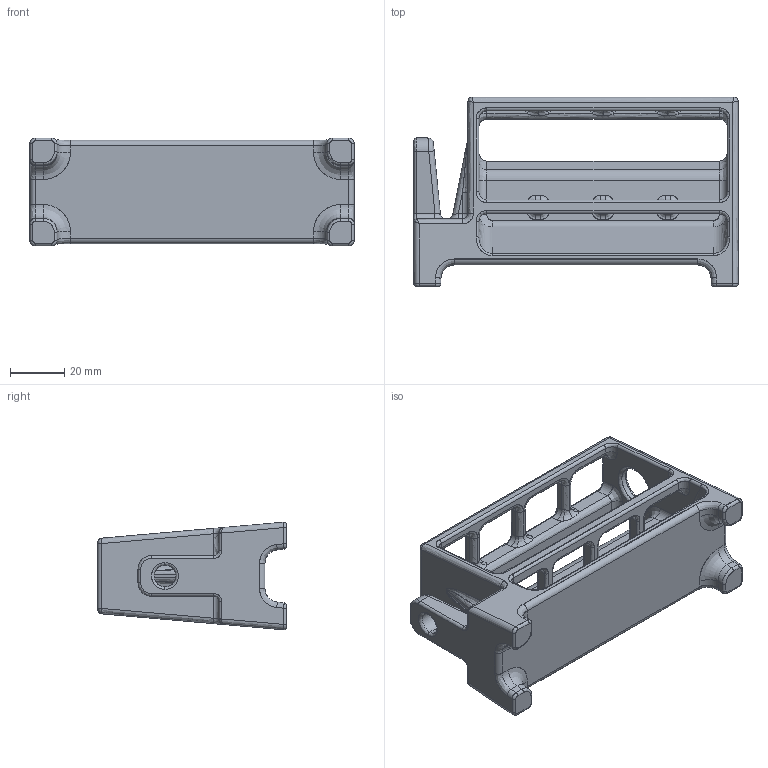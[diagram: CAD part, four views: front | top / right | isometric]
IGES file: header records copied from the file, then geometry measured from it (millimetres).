
Start section: SolidWorks IGES file using analytic representation for surfaces
Global section: file name: C:\Users\wazab\OneDrive\Works\teeth-brash-holder_ver2.IGS; native system: SolidWorks 2016; preprocessor: SolidWorks 2016; author: wazab; date: 170104.110056; units: millimetre
Bounding box: 120 x 70 x 39.82 mm (x, y, z)
Surface area: 31176 mm2 (no closed solid volume)
Topology: 0 solids, 0 shells, 412 faces, 3385 edges, 3377 vertices
Faces by surface type: bspline 206, revolution 206
